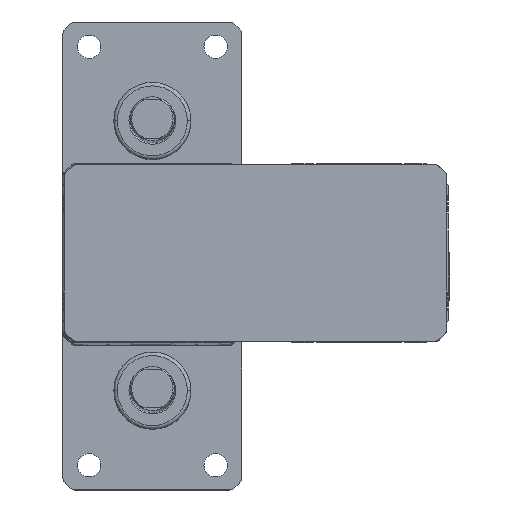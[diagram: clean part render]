
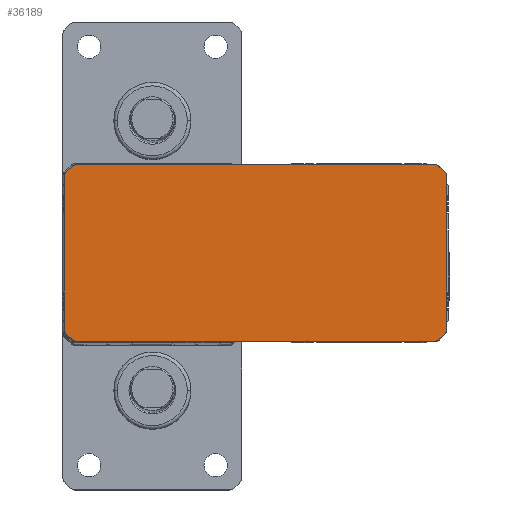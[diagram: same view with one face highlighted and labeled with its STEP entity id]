
A CAD part, top view. The second image highlights one B-rep face of the part: STEP entity #36189.
In plain terms, the highlighted planar face has unit normal (0, 0, 1).
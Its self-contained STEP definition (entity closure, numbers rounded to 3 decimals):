
#219 = VERTEX_POINT ( 'NONE', #26469 ) ;
#1240 = ORIENTED_EDGE ( 'NONE', *, *, #23692, .T. ) ;
#1314 = CARTESIAN_POINT ( 'NONE',  ( 104.061, -31.561, 594. ) ) ;
#1545 = DIRECTION ( 'NONE',  ( 1., 0., 0. ) ) ;
#1858 = CIRCLE ( 'NONE', #7255, 1.5 ) ;
#1967 = CARTESIAN_POINT ( 'NONE',  ( 106.561, -29.061, 594. ) ) ;
#2011 = DIRECTION ( 'NONE',  ( -1., 0., 0. ) ) ;
#2211 = VECTOR ( 'NONE', #6703, 1000. ) ;
#2936 = CIRCLE ( 'NONE', #20969, 1.5 ) ;
#3033 = DIRECTION ( 'NONE',  ( 1., 0., 0. ) ) ;
#3159 = CARTESIAN_POINT ( 'NONE',  ( -32., 28., 594. ) ) ;
#3411 = AXIS2_PLACEMENT_3D ( 'NONE', #49898, #25779, #1545 ) ;
#4396 = CARTESIAN_POINT ( 'NONE',  ( 107., 28., 594. ) ) ;
#4537 = AXIS2_PLACEMENT_3D ( 'NONE', #42388, #18310, #46437 ) ;
#5192 = CARTESIAN_POINT ( 'NONE',  ( -32., -28., 594. ) ) ;
#5288 = CIRCLE ( 'NONE', #3411, 1.5 ) ;
#6703 = DIRECTION ( 'NONE',  ( 0., -1., 0. ) ) ;
#6707 = CIRCLE ( 'NONE', #50962, 1.5 ) ;
#7251 = ORIENTED_EDGE ( 'NONE', *, *, #10274, .T. ) ;
#7255 = AXIS2_PLACEMENT_3D ( 'NONE', #11153, #39284, #15205 ) ;
#7365 = LINE ( 'NONE', #50403, #9939 ) ;
#7708 = ORIENTED_EDGE ( 'NONE', *, *, #25313, .T. ) ;
#7806 = CARTESIAN_POINT ( 'NONE',  ( 107., -28., 594. ) ) ;
#7930 = CARTESIAN_POINT ( 'NONE',  ( 103., -32., 594. ) ) ;
#8581 = EDGE_CURVE ( 'NONE', #44882, #15693, #47126, .T. ) ;
#8708 = EDGE_CURVE ( 'NONE', #17646, #31251, #11222, .T. ) ;
#9247 = CARTESIAN_POINT ( 'NONE',  ( 104.061, -31.561, 594. ) ) ;
#9305 = EDGE_CURVE ( 'NONE', #46953, #42458, #34455, .T. ) ;
#9723 = VERTEX_POINT ( 'NONE', #1314 ) ;
#9939 = VECTOR ( 'NONE', #46359, 1000. ) ;
#10196 = CARTESIAN_POINT ( 'NONE',  ( -29.061, -31.561, 594. ) ) ;
#10274 = EDGE_CURVE ( 'NONE', #42927, #14021, #17355, .T. ) ;
#10278 = VERTEX_POINT ( 'NONE', #18143 ) ;
#11153 = CARTESIAN_POINT ( 'NONE',  ( -30.5, -28., 594. ) ) ;
#11222 = LINE ( 'NONE', #46938, #42084 ) ;
#11879 = ORIENTED_EDGE ( 'NONE', *, *, #46145, .T. ) ;
#12280 = EDGE_CURVE ( 'NONE', #36791, #29600, #2936, .T. ) ;
#13093 = LINE ( 'NONE', #21891, #47719 ) ;
#13107 = CIRCLE ( 'NONE', #23296, 1.5 ) ;
#13306 = DIRECTION ( 'NONE',  ( 0.707, 0.707, 0. ) ) ;
#13372 = ORIENTED_EDGE ( 'NONE', *, *, #47594, .T. ) ;
#13619 = CARTESIAN_POINT ( 'NONE',  ( -30.5, 28., 594. ) ) ;
#13637 = PLANE ( 'NONE',  #32772 ) ;
#14021 = VERTEX_POINT ( 'NONE', #36923 ) ;
#14069 = DIRECTION ( 'NONE',  ( -0.707, -0.707, 0. ) ) ;
#15205 = DIRECTION ( 'NONE',  ( 1., 0., 0. ) ) ;
#15693 = VERTEX_POINT ( 'NONE', #17768 ) ;
#16024 = AXIS2_PLACEMENT_3D ( 'NONE', #40881, #16791, #44943 ) ;
#16072 = VECTOR ( 'NONE', #14069, 1000. ) ;
#16791 = DIRECTION ( 'NONE',  ( 0., 0., 1. ) ) ;
#17213 = ORIENTED_EDGE ( 'NONE', *, *, #31763, .T. ) ;
#17355 = LINE ( 'NONE', #34137, #16072 ) ;
#17646 = VERTEX_POINT ( 'NONE', #7806 ) ;
#17686 = DIRECTION ( 'NONE',  ( 1., 0., 0. ) ) ;
#17697 = DIRECTION ( 'NONE',  ( 1., 0., 0. ) ) ;
#17768 = CARTESIAN_POINT ( 'NONE',  ( 103., 32., 594. ) ) ;
#18143 = CARTESIAN_POINT ( 'NONE',  ( -31.561, -29.061, 594. ) ) ;
#18194 = CARTESIAN_POINT ( 'NONE',  ( 103., 32., 594. ) ) ;
#18310 = DIRECTION ( 'NONE',  ( 0., 0., 1. ) ) ;
#18614 = VECTOR ( 'NONE', #13306, 1000. ) ;
#20562 = DIRECTION ( 'NONE',  ( 0., 0., 1. ) ) ;
#20969 = AXIS2_PLACEMENT_3D ( 'NONE', #44667, #20562, #48700 ) ;
#21603 = ORIENTED_EDGE ( 'NONE', *, *, #8708, .T. ) ;
#21891 = CARTESIAN_POINT ( 'NONE',  ( 106.561, 29.061, 594. ) ) ;
#23296 = AXIS2_PLACEMENT_3D ( 'NONE', #51394, #27265, #3033 ) ;
#23447 = CARTESIAN_POINT ( 'NONE',  ( 105.5, -28., 594. ) ) ;
#23692 = EDGE_CURVE ( 'NONE', #29600, #48324, #7365, .T. ) ;
#24497 = VECTOR ( 'NONE', #51168, 1000. ) ;
#25313 = EDGE_CURVE ( 'NONE', #14021, #46953, #48023, .T. ) ;
#25779 = DIRECTION ( 'NONE',  ( 0., 0., 1. ) ) ;
#26469 = CARTESIAN_POINT ( 'NONE',  ( 106.561, 29.061, 594. ) ) ;
#26891 = VERTEX_POINT ( 'NONE', #1967 ) ;
#27265 = DIRECTION ( 'NONE',  ( 0., 0., 1. ) ) ;
#27487 = DIRECTION ( 'NONE',  ( 1., 0., 0. ) ) ;
#27979 = CIRCLE ( 'NONE', #16024, 1.5 ) ;
#28011 = EDGE_CURVE ( 'NONE', #219, #44882, #13093, .T. ) ;
#28129 = EDGE_CURVE ( 'NONE', #26891, #17646, #6707, .T. ) ;
#28296 = ORIENTED_EDGE ( 'NONE', *, *, #28129, .T. ) ;
#28837 = VERTEX_POINT ( 'NONE', #35830 ) ;
#28908 = AXIS2_PLACEMENT_3D ( 'NONE', #13619, #41760, #17686 ) ;
#29600 = VERTEX_POINT ( 'NONE', #44916 ) ;
#29755 = CARTESIAN_POINT ( 'NONE',  ( 104.061, 31.561, 594. ) ) ;
#31251 = VERTEX_POINT ( 'NONE', #4396 ) ;
#31357 = EDGE_CURVE ( 'NONE', #9723, #26891, #50709, .T. ) ;
#31404 = EDGE_CURVE ( 'NONE', #28837, #42927, #5288, .T. ) ;
#31763 = EDGE_CURVE ( 'NONE', #31251, #219, #27979, .T. ) ;
#32772 = AXIS2_PLACEMENT_3D ( 'NONE', #49706, #41774, #17697 ) ;
#33177 = ORIENTED_EDGE ( 'NONE', *, *, #33347, .T. ) ;
#33347 = EDGE_CURVE ( 'NONE', #42458, #10278, #1858, .T. ) ;
#34137 = CARTESIAN_POINT ( 'NONE',  ( -29.061, 31.561, 594. ) ) ;
#34455 = LINE ( 'NONE', #42849, #2211 ) ;
#34756 = LINE ( 'NONE', #18194, #44213 ) ;
#35140 = CARTESIAN_POINT ( 'NONE',  ( -31.561, -29.061, 594. ) ) ;
#35239 = EDGE_CURVE ( 'NONE', #48324, #9723, #13107, .T. ) ;
#35830 = CARTESIAN_POINT ( 'NONE',  ( -28., 32., 594. ) ) ;
#36189 = ADVANCED_FACE ( 'NONE', ( #39829 ), #13637, .T. ) ;
#36791 = VERTEX_POINT ( 'NONE', #10196 ) ;
#36923 = CARTESIAN_POINT ( 'NONE',  ( -31.561, 29.061, 594. ) ) ;
#37795 = ORIENTED_EDGE ( 'NONE', *, *, #9305, .T. ) ;
#38221 = ORIENTED_EDGE ( 'NONE', *, *, #8581, .T. ) ;
#38352 = ORIENTED_EDGE ( 'NONE', *, *, #35239, .T. ) ;
#39284 = DIRECTION ( 'NONE',  ( 0., 0., 1. ) ) ;
#39829 = FACE_OUTER_BOUND ( 'NONE', #45583, .T. ) ;
#40302 = ORIENTED_EDGE ( 'NONE', *, *, #31357, .T. ) ;
#40312 = ORIENTED_EDGE ( 'NONE', *, *, #31404, .T. ) ;
#40881 = CARTESIAN_POINT ( 'NONE',  ( 105.5, 28., 594. ) ) ;
#41081 = ORIENTED_EDGE ( 'NONE', *, *, #12280, .T. ) ;
#41760 = DIRECTION ( 'NONE',  ( 0., 0., 1. ) ) ;
#41774 = DIRECTION ( 'NONE',  ( 0., 0., 1. ) ) ;
#42084 = VECTOR ( 'NONE', #46781, 1000. ) ;
#42388 = CARTESIAN_POINT ( 'NONE',  ( 103., 30.5, 594. ) ) ;
#42458 = VERTEX_POINT ( 'NONE', #5192 ) ;
#42701 = ORIENTED_EDGE ( 'NONE', *, *, #28011, .T. ) ;
#42849 = CARTESIAN_POINT ( 'NONE',  ( -32., 28., 594. ) ) ;
#42927 = VERTEX_POINT ( 'NONE', #49398 ) ;
#44213 = VECTOR ( 'NONE', #2011, 1000. ) ;
#44667 = CARTESIAN_POINT ( 'NONE',  ( -28., -30.5, 594. ) ) ;
#44882 = VERTEX_POINT ( 'NONE', #29755 ) ;
#44916 = CARTESIAN_POINT ( 'NONE',  ( -28., -32., 594. ) ) ;
#44943 = DIRECTION ( 'NONE',  ( 1., 0., 0. ) ) ;
#45583 = EDGE_LOOP ( 'NONE', ( #33177, #13372, #41081, #1240, #38352, #40302, #28296, #21603, #17213, #42701, #38221, #11879, #40312, #7251, #7708, #37795 ) ) ;
#45804 = DIRECTION ( 'NONE',  ( -0.707, 0.707, 0. ) ) ;
#45927 = LINE ( 'NONE', #35140, #24497 ) ;
#46145 = EDGE_CURVE ( 'NONE', #15693, #28837, #34756, .T. ) ;
#46359 = DIRECTION ( 'NONE',  ( 1., 0., 0. ) ) ;
#46437 = DIRECTION ( 'NONE',  ( 1., 0., 0. ) ) ;
#46781 = DIRECTION ( 'NONE',  ( 0., 1., 0. ) ) ;
#46938 = CARTESIAN_POINT ( 'NONE',  ( 107., -28., 594. ) ) ;
#46953 = VERTEX_POINT ( 'NONE', #3159 ) ;
#47126 = CIRCLE ( 'NONE', #4537, 1.5 ) ;
#47594 = EDGE_CURVE ( 'NONE', #10278, #36791, #45927, .T. ) ;
#47719 = VECTOR ( 'NONE', #45804, 1000. ) ;
#48023 = CIRCLE ( 'NONE', #28908, 1.5 ) ;
#48324 = VERTEX_POINT ( 'NONE', #7930 ) ;
#48700 = DIRECTION ( 'NONE',  ( 1., 0., 0. ) ) ;
#49398 = CARTESIAN_POINT ( 'NONE',  ( -29.061, 31.561, 594. ) ) ;
#49706 = CARTESIAN_POINT ( 'NONE',  ( -30.5, -28., 594. ) ) ;
#49898 = CARTESIAN_POINT ( 'NONE',  ( -28., 30.5, 594. ) ) ;
#50403 = CARTESIAN_POINT ( 'NONE',  ( -28., -32., 594. ) ) ;
#50709 = LINE ( 'NONE', #9247, #18614 ) ;
#50962 = AXIS2_PLACEMENT_3D ( 'NONE', #23447, #51615, #27487 ) ;
#51168 = DIRECTION ( 'NONE',  ( 0.707, -0.707, 0. ) ) ;
#51394 = CARTESIAN_POINT ( 'NONE',  ( 103., -30.5, 594. ) ) ;
#51615 = DIRECTION ( 'NONE',  ( 0., 0., 1. ) ) ;
